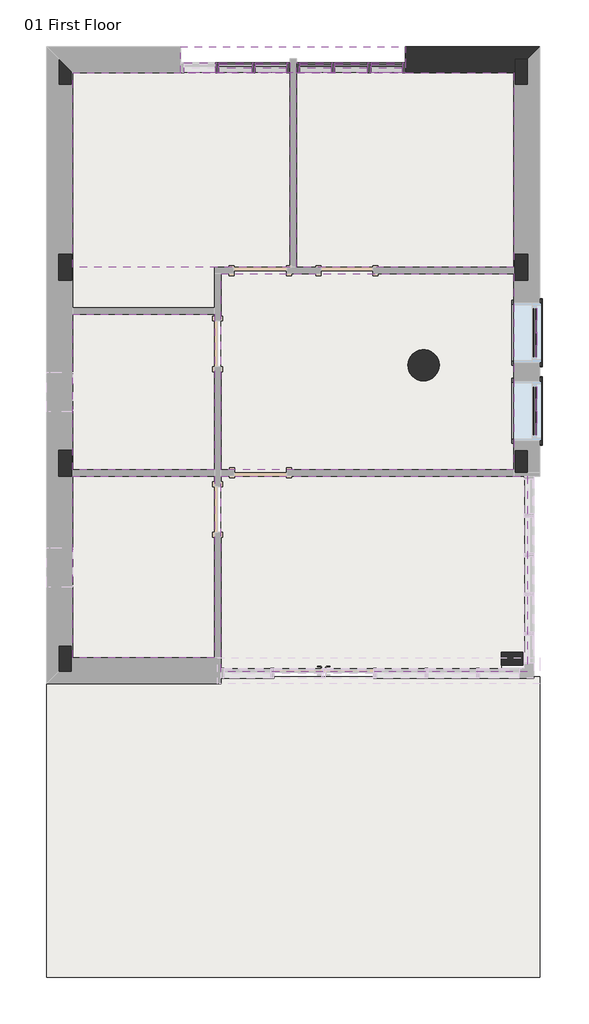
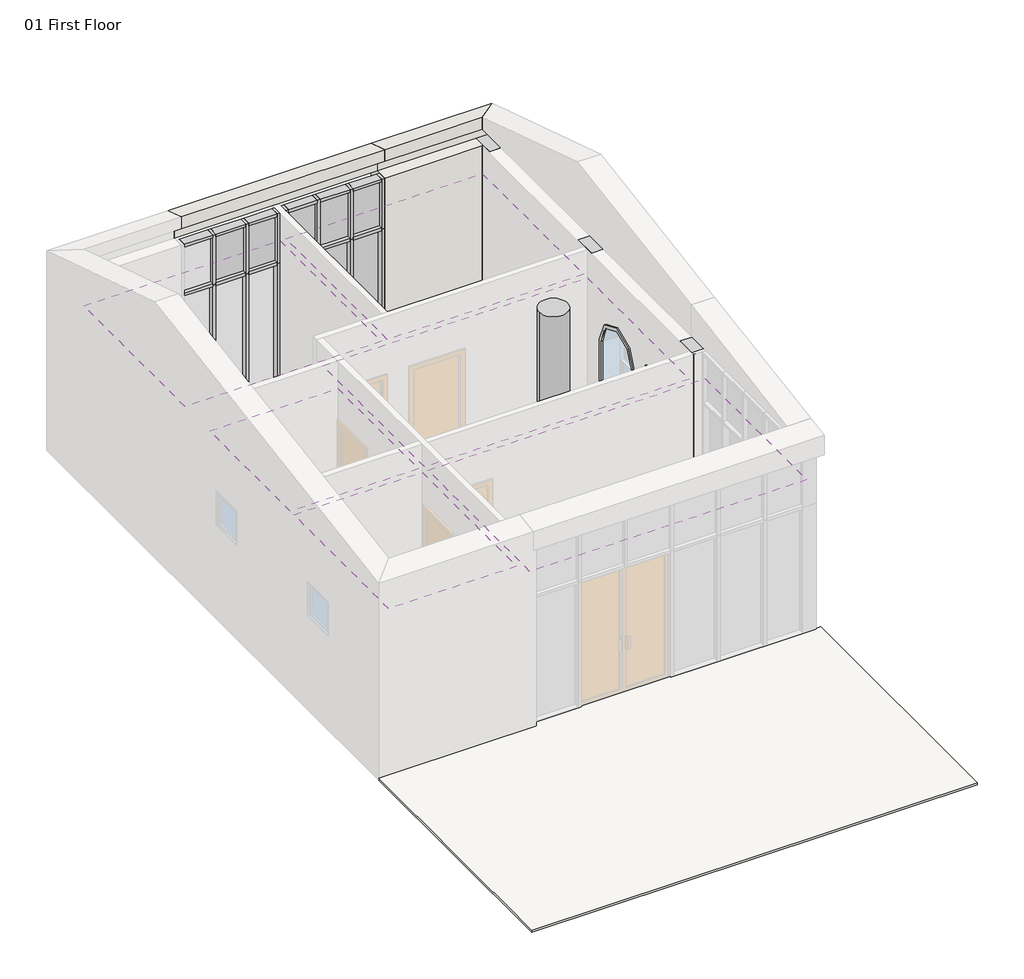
# One storey, part 3 of 3: 31 members, 9 columns, 8 plates, 8 proxies, 6 coverings, 4 slabs, 2 walls.
"""IFC4 building model written with IfcOpenShell, lengths in millimetres."""

from ifc_helpers import new_model, si_unit, point, frame, frame_2d, origin, place, context, project, spatial, polyline, circle_curve, trimmed, segment, composite_curve, outline, extrude, faceted_brep, transform, mapped, element, save
from components import m_muntin_pattern_2x2_m_muntin_pattern_2x2_eda20b33, m_trim_window_exterior_arch_hung_with_sill_d6b66b3f, m_trim_window_interior_arch_hung_picture_frame_427b2bff, rectangular_mullion_50_x_150mm_8753ce05, rectangular_mullion_50_x_150mm_f70f74d1, rectangular_mullion_50_x_150mm_d1e66009, rectangular_mullion_50_x_150mm_6b054e58, rectangular_mullion_50_x_150mm_158f91f9, rectangular_mullion_50_x_150mm_7e1a8c17, rectangular_mullion_50_x_150mm_3ddb3363, rectangular_mullion_50_x_150mm_35d6a770, system_panel_glazed_5d80e23d, system_panel_glazed_623b0429, system_panel_solid_e171d4ab, system_panel_solid_d5224606

model = new_model("IFC4")

# Units and contexts
model_context = context("Model", 3, world=origin())
ifc_project = project(units=[si_unit("LENGTHUNIT", "METRE", prefix="MILLI")], contexts=[model_context])

# Site, building, storey
site = spatial("IfcSite", under=ifc_project)
building = spatial("IfcBuilding", under=site)
storey = spatial("IfcBuildingStorey", under=building, Name="01 First Floor", Elevation=3500.0)

# Proxies
placement = place(None, origin())
m_muntin_pattern_2x2_m_muntin_pattern_2x2_shape = m_muntin_pattern_2x2_m_muntin_pattern_2x2_eda20b33(model_context)
element("IfcBuildingElementProxy", 1, Name="M_Muntin Pattern_2x2 : M_Muntin Pattern_2x2", ObjectType="M_Muntin Pattern_2x2 : M_Muntin Pattern_2x2", at=placement, inside=storey, context=model_context, shape_type="MappedRepresentation", body=[
    mapped(m_muntin_pattern_2x2_m_muntin_pattern_2x2_shape, transform((-972.4657999, 936.7898352, 4922.225), x_axis=(0.0, -1.0, 0.0), y_axis=(1.0, 0.0, 0.0), z_axis=(0.0, 0.0, 1.0))),
])
element("IfcBuildingElementProxy", 2, Name="M_Muntin Pattern_2x2 : M_Muntin Pattern_2x2", ObjectType="M_Muntin Pattern_2x2 : M_Muntin Pattern_2x2", at=placement, inside=storey, context=model_context, shape_type="MappedRepresentation", body=[
    mapped(m_muntin_pattern_2x2_m_muntin_pattern_2x2_shape, transform((-1016.9157999, 936.7898352, 4076.2), x_axis=(0.0, -1.0, 0.0), y_axis=(1.0, 0.0, 0.0), z_axis=(0.0, 0.0, 1.0))),
])
element("IfcBuildingElementProxy", 3, Name="M_Muntin Pattern_2x2 : M_Muntin Pattern_2x2", ObjectType="M_Muntin Pattern_2x2 : M_Muntin Pattern_2x2", at=placement, inside=storey, context=model_context, shape_type="MappedRepresentation", body=[
    mapped(m_muntin_pattern_2x2_m_muntin_pattern_2x2_shape, transform((-972.4657999, 2136.7898352, 4922.225), x_axis=(0.0, -1.0, 0.0), y_axis=(1.0, 0.0, 0.0), z_axis=(0.0, 0.0, 1.0))),
])
element("IfcBuildingElementProxy", 4, Name="M_Muntin Pattern_2x2 : M_Muntin Pattern_2x2", ObjectType="M_Muntin Pattern_2x2 : M_Muntin Pattern_2x2", at=placement, inside=storey, context=model_context, shape_type="MappedRepresentation", body=[
    mapped(m_muntin_pattern_2x2_m_muntin_pattern_2x2_shape, transform((-1016.9157999, 2136.7898352, 4076.2), x_axis=(0.0, -1.0, 0.0), y_axis=(1.0, 0.0, 0.0), z_axis=(0.0, 0.0, 1.0))),
])
m_trim_window_exterior_arch_hung_with_sill_shape = m_trim_window_exterior_arch_hung_with_sill_d6b66b3f(model_context)
element("IfcBuildingElementProxy", 5, Name="M_Trim-Window-Exterior-Arch-Hung : with Sill", ObjectType="M_Trim-Window-Exterior-Arch-Hung : with Sill", at=placement, inside=storey, context=model_context, shape_type="MappedRepresentation", body=[
    mapped(m_trim_window_exterior_arch_hung_with_sill_shape, transform((-937.5407999, 936.7898352, 5800.0), x_axis=(0.0, 1.0, 0.0), y_axis=(0.0, 0.0, 1.0), z_axis=(1.0, 0.0, 0.0))),
])
element("IfcBuildingElementProxy", 6, Name="M_Trim-Window-Exterior-Arch-Hung : with Sill", ObjectType="M_Trim-Window-Exterior-Arch-Hung : with Sill", at=placement, inside=storey, context=model_context, shape_type="MappedRepresentation", body=[
    mapped(m_trim_window_exterior_arch_hung_with_sill_shape, transform((-937.5407999, 2136.7898352, 5800.0), x_axis=(0.0, 1.0, 0.0), y_axis=(0.0, 0.0, 1.0), z_axis=(1.0, 0.0, 0.0))),
])
m_trim_window_interior_arch_hung_picture_frame_shape = m_trim_window_interior_arch_hung_picture_frame_427b2bff(model_context)
element("IfcBuildingElementProxy", 7, Name="M_Trim-Window-Interior-Arch-Hung : Picture Frame", ObjectType="M_Trim-Window-Interior-Arch-Hung : Picture Frame", at=placement, inside=storey, context=model_context, shape_type="MappedRepresentation", body=[
    mapped(m_trim_window_interior_arch_hung_picture_frame_shape, transform((-1335.5407999, 936.7898352, 5800.0), x_axis=(0.0, -1.0, 0.0), y_axis=(0.0, 0.0, 1.0), z_axis=(-1.0, 0.0, 0.0))),
])
element("IfcBuildingElementProxy", 8, Name="M_Trim-Window-Interior-Arch-Hung : Picture Frame", ObjectType="M_Trim-Window-Interior-Arch-Hung : Picture Frame", at=placement, inside=storey, context=model_context, shape_type="MappedRepresentation", body=[
    mapped(m_trim_window_interior_arch_hung_picture_frame_shape, transform((-1335.5407999, 2136.7898352, 5800.0), x_axis=(0.0, -1.0, 0.0), y_axis=(0.0, 0.0, 1.0), z_axis=(-1.0, 0.0, 0.0))),
])

# Columns
element("IfcColumn", 9, ObjectType="M_Concrete-Rectangular-Column : 200 x 325mm", at=placement, inside=storey, context=model_context, shape_type="SweptSolid", body=[
    extrude(outline(polyline([(-1527.5407999, -2762.7101648), (-1202.5407999, -2762.7101648), (-1202.5407999, -2962.7101648), (-1527.5407999, -2962.7101648), (-1527.5407999, -2762.7101648)])), frame((0.0, 0.0, 3500.0), z_axis=(0.0, 0.0, 1.0), x_axis=(1.0, 0.0, 0.0)), (0.0, 0.0, 1.0), 3200.0),
])
element("IfcColumn", 10, ObjectType="M_Concrete-Rectangular-Column : 200 x 400mm", at=placement, inside=storey, context=model_context, shape_type="Brep", body=[
    faceted_brep([(-8122.5407999, 6337.2898352, 3500.0), (-8122.5407999, 6137.2898352, 3500.0), (-8122.5407999, 5937.2898352, 3500.0), (-8322.5407999, 5937.2898352, 3500.0), (-8322.5407999, 6337.2898352, 3500.0), (-8122.5407999, 6337.2898352, 6700.0), (-8122.5407999, 6137.2898352, 6700.0), (-8122.5407999, 5937.2898352, 6700.0), (-8322.5407999, 5937.2898352, 6700.0), (-8322.5407999, 6337.2898352, 6700.0)], [[[0, 1, 2, 3, 4]], [[2, 1, 0, 5, 6, 7]], [[3, 2, 7, 8]], [[4, 3, 8, 9]], [[0, 4, 9, 5]], [[7, 6, 5, 9, 8]]]),
])
element("IfcColumn", 11, ObjectType="M_Concrete-Rectangular-Column : 200 x 400mm", at=placement, inside=storey, context=model_context, shape_type="SweptSolid", body=[
    extrude(outline(polyline([(-8122.5407999, 3337.2898352), (-8122.5407999, 2937.2898352), (-8322.5407999, 2937.2898352), (-8322.5407999, 3337.2898352), (-8122.5407999, 3337.2898352)])), frame((0.0, 0.0, 3500.0), z_axis=(0.0, 0.0, 1.0), x_axis=(1.0, 0.0, 0.0)), (0.0, 0.0, 1.0), 3200.0),
])
element("IfcColumn", 12, ObjectType="M_Concrete-Rectangular-Column : 200 x 400mm", at=placement, inside=storey, context=model_context, shape_type="SweptSolid", body=[
    extrude(outline(polyline([(-8122.5407999, 337.2898352), (-8122.5407999, -62.7101648), (-8322.5407999, -62.7101648), (-8322.5407999, 337.2898352), (-8122.5407999, 337.2898352)])), frame((0.0, 0.0, 3500.0), z_axis=(0.0, 0.0, 1.0), x_axis=(1.0, 0.0, 0.0)), (0.0, 0.0, 1.0), 3200.0),
])
element("IfcColumn", 13, ObjectType="M_Concrete-Rectangular-Column : 200 x 400mm", at=placement, inside=storey, context=model_context, shape_type="Brep", body=[
    faceted_brep([(-8122.5407999, -2662.7101648, 3500.0), (-8122.5407999, -2862.7101648, 3500.0), (-8122.5407999, -3062.7101648, 3500.0), (-8322.5407999, -3062.7101648, 3500.0), (-8322.5407999, -2662.7101648, 3500.0), (-8122.5407999, -2662.7101648, 6700.0), (-8122.5407999, -2862.7101648, 6700.0), (-8122.5407999, -3062.7101648, 6700.0), (-8322.5407999, -3062.7101648, 6700.0), (-8322.5407999, -2662.7101648, 6700.0)], [[[0, 1, 2, 3, 4]], [[2, 1, 0, 5, 6, 7]], [[3, 2, 7, 8]], [[4, 3, 8, 9]], [[0, 4, 9, 5]], [[7, 6, 5, 9, 8]]]),
])
element("IfcColumn", 14, ObjectType="M_Concrete-Rectangular-Column : 200 x 400mm", at=placement, inside=storey, context=model_context, shape_type="Brep", body=[
    faceted_brep([(-1122.5407999, 337.2898352, 3500.0), (-1122.5407999, -12.7101648, 3500.0), (-1122.5407999, -62.7101648, 3500.0), (-1322.5407999, -62.7101648, 3500.0), (-1322.5407999, -12.7101648, 3500.0), (-1322.5407999, 337.2898352, 3500.0), (-1122.5407999, 337.2898352, 6700.0), (-1122.5407999, -62.7101648, 6700.0), (-1322.5407999, -62.7101648, 6700.0), (-1322.5407999, -12.7101648, 6700.0), (-1322.5407999, 337.2898352, 6700.0)], [[[0, 1, 2, 3, 4, 5]], [[2, 1, 0, 6, 7]], [[3, 2, 7, 8]], [[5, 4, 3, 8, 9, 10]], [[0, 5, 10, 6]], [[7, 6, 10, 9, 8]]]),
])
element("IfcColumn", 15, ObjectType="M_Concrete-Rectangular-Column : 200 x 400mm", at=placement, inside=storey, context=model_context, shape_type="Brep", body=[
    faceted_brep([(-1122.5407999, 6337.2898352, 3500.0), (-1122.5407999, 5937.2898352, 3500.0), (-1322.5407999, 5937.2898352, 3500.0), (-1322.5407999, 6137.2898352, 3500.0), (-1322.5407999, 6337.2898352, 3500.0), (-1122.5407999, 6337.2898352, 6700.0), (-1122.5407999, 5937.2898352, 6700.0), (-1322.5407999, 5937.2898352, 6700.0), (-1322.5407999, 6137.2898352, 6700.0), (-1322.5407999, 6337.2898352, 6700.0)], [[[0, 1, 2, 3, 4]], [[1, 0, 5, 6]], [[2, 1, 6, 7]], [[4, 3, 2, 7, 8, 9]], [[0, 4, 9, 5]], [[6, 5, 9, 8, 7]]]),
])
element("IfcColumn", 16, ObjectType="M_Concrete-Rectangular-Column : 200 x 400mm", at=placement, inside=storey, context=model_context, shape_type="SweptSolid", body=[
    extrude(outline(polyline([(-1122.5407999, 3337.2898352), (-1122.5407999, 2937.2898352), (-1322.5407999, 2937.2898352), (-1322.5407999, 3337.2898352), (-1122.5407999, 3337.2898352)])), frame((0.0, 0.0, 3500.0), z_axis=(0.0, 0.0, 1.0), x_axis=(1.0, 0.0, 0.0)), (0.0, 0.0, 1.0), 3200.0),
])
element("IfcColumn", 17, ObjectType="M_Concrete-Round-Column : 480mm", at=placement, inside=storey, context=model_context, shape_type="SweptSolid", body=[
    extrude(outline(composite_curve([segment(trimmed(circle_curve(frame_2d((-2722.5407999, 1637.2898352)), 240.0), [point((-2962.5407999, 1637.2898352))], [point((-2482.5407999, 1637.2898352))], False, "CARTESIAN"), True, "CONTINUOUS"), segment(trimmed(circle_curve(frame_2d((-2722.5407999, 1637.2898352)), 240.0), [point((-2482.5407999, 1637.2898352))], [point((-2962.5407999, 1637.2898352))], False, "CARTESIAN"), True, "CONTINUOUS")], self_intersect=False)), frame((0.0, 0.0, 3500.0), z_axis=(0.0, 0.0, 1.0), x_axis=(1.0, 0.0, 0.0)), (0.0, 0.0, 1.0), 3500.0),
])

# Coverings
element("IfcCovering", 18, ObjectType="600 x 600mm Grid", at=placement, inside=storey, context=model_context, shape_type="SweptSolid", body=[
    extrude(outline(polyline([(-1127.5407999, -62.7101648), (-1127.5407999, -3062.7101648), (-5832.5407999, -3062.7101648), (-5832.5407999, -62.7101648), (-1127.5407999, -62.7101648)])), frame((0.0, 0.0, 6200.0), z_axis=(0.0, 0.0, 1.0), x_axis=(1.0, 0.0, 0.0)), (0.0, 0.0, 1.0), 52.0),
])
element("IfcCovering", 19, ObjectType="600 x 600mm Grid", at=placement, inside=storey, context=model_context, shape_type="SweptSolid", body=[
    extrude(outline(polyline([(-5832.5407999, 3037.2898352), (-1335.5407999, 3037.6532062), (-1335.5407999, 37.2898352), (-5832.5407999, 37.2898352), (-5832.5407999, 3037.2898352)]), holes=[composite_curve([segment(polyline([(-3762.5550463, 1637.3625525), (-2962.1657331, 1637.3625525)]), True, "CONTINUOUS"), segment(trimmed(circle_curve(frame_2d((-2722.147977, 1637.3625525)), 240.0177561), [point((-2962.1657331, 1637.3625525))], [point((-2722.147977, 1397.3447964))], False, "CARTESIAN"), True, "CONTINUOUS"), segment(polyline([(-2722.147977, 1397.3447964), (-2709.6572376, 597.4130295)]), True, "CONTINUOUS"), segment(trimmed(circle_curve(frame_2d((-2722.5259059, 1637.3625525)), 1040.0291404), [point((-2709.6572376, 597.4130295))], [point((-3762.5550463, 1637.3625525))], True, "CARTESIAN"), True, "CONTINUOUS")], self_intersect=False)]), frame((0.0, 0.0, 6200.0), z_axis=(0.0, 0.0, 1.0), x_axis=(1.0, 0.0, 0.0)), (0.0, 0.0, 1.0), 52.0),
])
element("IfcCovering", 20, ObjectType="600 x 600mm Grid", at=placement, inside=storey, context=model_context, shape_type="SweptSolid", body=[
    extrude(outline(polyline([(-2997.5407999, 6124.2898352), (-1335.5407999, 6124.2898352), (-1335.5407999, 3137.6532065), (-4672.5407999, 3137.383567), (-4672.5407999, 6124.2898352), (-2997.5407999, 6124.2898352)])), frame((0.0, 0.0, 6200.0), z_axis=(0.0, 0.0, 1.0), x_axis=(1.0, 0.0, 0.0)), (0.0, 0.0, 1.0), 52.0),
])
element("IfcCovering", 21, ObjectType="600 x 600mm Grid", at=placement, inside=storey, context=model_context, shape_type="SweptSolid", body=[
    extrude(outline(polyline([(-4772.5407999, 6124.2898352), (-4772.5407999, 3137.3754867), (-8109.5407999, 3137.3754867), (-8109.5407999, 6124.2898352), (-4772.5407999, 6124.2898352)])), frame((0.0, 0.0, 6200.0), z_axis=(0.0, 0.0, 1.0), x_axis=(1.0, 0.0, 0.0)), (0.0, 0.0, 1.0), 52.0),
])
element("IfcCovering", 22, ObjectType="600 x 600mm Grid", at=placement, inside=storey, context=model_context, shape_type="SweptSolid", body=[
    extrude(outline(polyline([(-5932.5407999, 37.2898352), (-8109.5407999, 37.2898352), (-8109.5407999, 2415.8732706), (-5932.5407999, 2415.8732706), (-5932.5407999, 37.2898352)])), frame((0.0, 0.0, 6200.0), z_axis=(0.0, 0.0, 1.0), x_axis=(1.0, 0.0, 0.0)), (0.0, 0.0, 1.0), 52.0),
])
element("IfcCovering", 23, ObjectType="600 x 600mm Grid", at=placement, inside=storey, context=model_context, shape_type="SweptSolid", body=[
    extrude(outline(polyline([(-5932.5407999, -2849.7101648), (-8109.5407999, -2849.7101648), (-8109.5407999, -62.7101648), (-5932.5407999, -62.7101648), (-5932.5407999, -2849.7101648)])), frame((0.0, 0.0, 6200.0), z_axis=(0.0, 0.0, 1.0), x_axis=(1.0, 0.0, 0.0)), (0.0, 0.0, 1.0), 52.0),
])

# Members
rectangular_mullion_50_x_150mm_shape = rectangular_mullion_50_x_150mm_8753ce05(model_context)
element("IfcMember", 24, ObjectType="Rectangular Mullion : 50 x 150mm", at=placement, inside=storey, context=model_context, shape_type="MappedRepresentation", body=[
    mapped(rectangular_mullion_50_x_150mm_shape, transform((-4772.5407999, 6199.2898352, 3500.0), x_axis=(1.0, 0.0, 0.0), y_axis=(0.0, -1.0, 0.0), z_axis=(0.0, 0.0, -1.0))),
])
element("IfcMember", 25, ObjectType="Rectangular Mullion : 50 x 150mm", at=placement, inside=storey, context=model_context, shape_type="MappedRepresentation", body=[
    mapped(rectangular_mullion_50_x_150mm_shape, transform((-2997.5407999, 6199.2898352, 3500.0), x_axis=(1.0, 0.0, 0.0), y_axis=(0.0, -1.0, 0.0), z_axis=(0.0, 0.0, -1.0))),
])
element("IfcMember", 26, ObjectType="Rectangular Mullion : 50 x 150mm", at=placement, inside=storey, context=model_context, shape_type="MappedRepresentation", body=[
    mapped(rectangular_mullion_50_x_150mm_shape, transform((-4672.5407999, 6199.2898352, 5800.0), x_axis=(-1.0, 0.0, 0.0), y_axis=(0.0, -1.0, 0.0), z_axis=(0.0, 0.0, 1.0))),
])
rectangular_mullion_50_x_150mm_2_shape = rectangular_mullion_50_x_150mm_f70f74d1(model_context)
element("IfcMember", 27, ObjectType="Rectangular Mullion : 50 x 150mm", at=placement, inside=storey, context=model_context, shape_type="MappedRepresentation", body=[
    mapped(rectangular_mullion_50_x_150mm_2_shape, transform((-5889.2074665, 6199.2898352, 3500.0), x_axis=(1.0, 0.0, 0.0), y_axis=(0.0, -1.0, 0.0), z_axis=(0.0, 0.0, -1.0))),
])
element("IfcMember", 28, ObjectType="Rectangular Mullion : 50 x 150mm", at=placement, inside=storey, context=model_context, shape_type="MappedRepresentation", body=[
    mapped(rectangular_mullion_50_x_150mm_2_shape, transform((-5330.8741334, 6199.2898352, 3500.0), x_axis=(1.0, 0.0, 0.0), y_axis=(0.0, -1.0, 0.0), z_axis=(0.0, 0.0, -1.0))),
])
element("IfcMember", 29, ObjectType="Rectangular Mullion : 50 x 150mm", at=placement, inside=storey, context=model_context, shape_type="MappedRepresentation", body=[
    mapped(rectangular_mullion_50_x_150mm_2_shape, transform((-4114.2074665, 6199.2898352, 3500.0), x_axis=(1.0, 0.0, 0.0), y_axis=(0.0, -1.0, 0.0), z_axis=(0.0, 0.0, -1.0))),
])
element("IfcMember", 30, ObjectType="Rectangular Mullion : 50 x 150mm", at=placement, inside=storey, context=model_context, shape_type="MappedRepresentation", body=[
    mapped(rectangular_mullion_50_x_150mm_2_shape, transform((-3555.8741334, 6199.2898352, 3500.0), x_axis=(1.0, 0.0, 0.0), y_axis=(0.0, -1.0, 0.0), z_axis=(0.0, 0.0, -1.0))),
])
rectangular_mullion_50_x_150mm_3_shape = rectangular_mullion_50_x_150mm_d1e66009(model_context)
element("IfcMember", 31, ObjectType="Rectangular Mullion : 50 x 150mm", at=placement, inside=storey, context=model_context, shape_type="MappedRepresentation", body=[
    mapped(rectangular_mullion_50_x_150mm_3_shape, transform((-4822.5407999, 6199.2898352, 6700.0), x_axis=(0.0, 0.0, 1.0), y_axis=(0.0, -1.0, 0.0), z_axis=(1.0, 0.0, 0.0))),
])
element("IfcMember", 32, ObjectType="Rectangular Mullion : 50 x 150mm", at=placement, inside=storey, context=model_context, shape_type="MappedRepresentation", body=[
    mapped(rectangular_mullion_50_x_150mm_3_shape, transform((-5914.2074665, 6199.2898352, 6700.0), x_axis=(0.0, 0.0, 1.0), y_axis=(0.0, -1.0, 0.0), z_axis=(1.0, 0.0, 0.0))),
])
element("IfcMember", 33, ObjectType="Rectangular Mullion : 50 x 150mm", at=placement, inside=storey, context=model_context, shape_type="MappedRepresentation", body=[
    mapped(rectangular_mullion_50_x_150mm_3_shape, transform((-3047.5407999, 6199.2898352, 6700.0), x_axis=(0.0, 0.0, 1.0), y_axis=(0.0, -1.0, 0.0), z_axis=(1.0, 0.0, 0.0))),
])
element("IfcMember", 34, ObjectType="Rectangular Mullion : 50 x 150mm", at=placement, inside=storey, context=model_context, shape_type="MappedRepresentation", body=[
    mapped(rectangular_mullion_50_x_150mm_3_shape, transform((-4139.2074665, 6199.2898352, 6700.0), x_axis=(0.0, 0.0, 1.0), y_axis=(0.0, -1.0, 0.0), z_axis=(1.0, 0.0, 0.0))),
])
rectangular_mullion_50_x_150mm_4_shape = rectangular_mullion_50_x_150mm_6b054e58(model_context)
element("IfcMember", 35, ObjectType="Rectangular Mullion : 50 x 150mm", at=placement, inside=storey, context=model_context, shape_type="MappedRepresentation", body=[
    mapped(rectangular_mullion_50_x_150mm_4_shape, transform((-5355.8741334, 6199.2898352, 6700.0), x_axis=(0.0, 0.0, 1.0), y_axis=(0.0, -1.0, 0.0), z_axis=(1.0, 0.0, 0.0))),
])
element("IfcMember", 36, ObjectType="Rectangular Mullion : 50 x 150mm", at=placement, inside=storey, context=model_context, shape_type="MappedRepresentation", body=[
    mapped(rectangular_mullion_50_x_150mm_4_shape, transform((-3580.8741334, 6199.2898352, 6700.0), x_axis=(0.0, 0.0, 1.0), y_axis=(0.0, -1.0, 0.0), z_axis=(1.0, 0.0, 0.0))),
])
element("IfcMember", 37, ObjectType="Rectangular Mullion : 50 x 150mm", at=placement, inside=storey, context=model_context, shape_type="MappedRepresentation", body=[
    mapped(rectangular_mullion_50_x_150mm_3_shape, transform((-5305.8741334, 6199.2898352, 3500.0), x_axis=(0.0, 0.0, -1.0), y_axis=(0.0, -1.0, 0.0), z_axis=(-1.0, 0.0, 0.0))),
])
element("IfcMember", 38, ObjectType="Rectangular Mullion : 50 x 150mm", at=placement, inside=storey, context=model_context, shape_type="MappedRepresentation", body=[
    mapped(rectangular_mullion_50_x_150mm_3_shape, transform((-4622.5407999, 6199.2898352, 3500.0), x_axis=(0.0, 0.0, -1.0), y_axis=(0.0, -1.0, 0.0), z_axis=(-1.0, 0.0, 0.0))),
])
element("IfcMember", 39, ObjectType="Rectangular Mullion : 50 x 150mm", at=placement, inside=storey, context=model_context, shape_type="MappedRepresentation", body=[
    mapped(rectangular_mullion_50_x_150mm_3_shape, transform((-3530.8741334, 6199.2898352, 3500.0), x_axis=(0.0, 0.0, -1.0), y_axis=(0.0, -1.0, 0.0), z_axis=(-1.0, 0.0, 0.0))),
])
element("IfcMember", 40, ObjectType="Rectangular Mullion : 50 x 150mm", at=placement, inside=storey, context=model_context, shape_type="MappedRepresentation", body=[
    mapped(rectangular_mullion_50_x_150mm_4_shape, transform((-5864.2074665, 6199.2898352, 3500.0), x_axis=(0.0, 0.0, -1.0), y_axis=(0.0, -1.0, 0.0), z_axis=(-1.0, 0.0, 0.0))),
])
element("IfcMember", 41, ObjectType="Rectangular Mullion : 50 x 150mm", at=placement, inside=storey, context=model_context, shape_type="MappedRepresentation", body=[
    mapped(rectangular_mullion_50_x_150mm_4_shape, transform((-4089.2074665, 6199.2898352, 3500.0), x_axis=(0.0, 0.0, -1.0), y_axis=(0.0, -1.0, 0.0), z_axis=(-1.0, 0.0, 0.0))),
])
rectangular_mullion_50_x_150mm_5_shape = rectangular_mullion_50_x_150mm_158f91f9(model_context)
element("IfcMember", 42, ObjectType="Rectangular Mullion : 50 x 150mm", at=placement, inside=storey, context=model_context, shape_type="MappedRepresentation", body=[
    mapped(rectangular_mullion_50_x_150mm_5_shape, transform((-5914.2074665, 6199.2898352, 5800.0), x_axis=(0.0, 0.0, 1.0), y_axis=(0.0, -1.0, 0.0), z_axis=(1.0, 0.0, 0.0))),
])
element("IfcMember", 43, ObjectType="Rectangular Mullion : 50 x 150mm", at=placement, inside=storey, context=model_context, shape_type="MappedRepresentation", body=[
    mapped(rectangular_mullion_50_x_150mm_5_shape, transform((-4822.5407999, 6199.2898352, 5800.0), x_axis=(0.0, 0.0, 1.0), y_axis=(0.0, -1.0, 0.0), z_axis=(1.0, 0.0, 0.0))),
])
element("IfcMember", 44, ObjectType="Rectangular Mullion : 50 x 150mm", at=placement, inside=storey, context=model_context, shape_type="MappedRepresentation", body=[
    mapped(rectangular_mullion_50_x_150mm_5_shape, transform((-4139.2074665, 6199.2898352, 5800.0), x_axis=(0.0, 0.0, 1.0), y_axis=(0.0, -1.0, 0.0), z_axis=(1.0, 0.0, 0.0))),
])
element("IfcMember", 45, ObjectType="Rectangular Mullion : 50 x 150mm", at=placement, inside=storey, context=model_context, shape_type="MappedRepresentation", body=[
    mapped(rectangular_mullion_50_x_150mm_5_shape, transform((-3047.5407999, 6199.2898352, 5800.0), x_axis=(0.0, 0.0, 1.0), y_axis=(0.0, -1.0, 0.0), z_axis=(1.0, 0.0, 0.0))),
])
rectangular_mullion_50_x_150mm_6_shape = rectangular_mullion_50_x_150mm_7e1a8c17(model_context)
element("IfcMember", 46, ObjectType="Rectangular Mullion : 50 x 150mm", at=placement, inside=storey, context=model_context, shape_type="MappedRepresentation", body=[
    mapped(rectangular_mullion_50_x_150mm_6_shape, transform((-5355.8741334, 6199.2898352, 5800.0), x_axis=(0.0, 0.0, 1.0), y_axis=(0.0, -1.0, 0.0), z_axis=(1.0, 0.0, 0.0))),
])
element("IfcMember", 47, ObjectType="Rectangular Mullion : 50 x 150mm", at=placement, inside=storey, context=model_context, shape_type="MappedRepresentation", body=[
    mapped(rectangular_mullion_50_x_150mm_6_shape, transform((-3580.8741334, 6199.2898352, 5800.0), x_axis=(0.0, 0.0, 1.0), y_axis=(0.0, -1.0, 0.0), z_axis=(1.0, 0.0, 0.0))),
])
rectangular_mullion_50_x_150mm_7_shape = rectangular_mullion_50_x_150mm_3ddb3363(model_context)
element("IfcMember", 48, ObjectType="Rectangular Mullion : 50 x 150mm", at=placement, inside=storey, context=model_context, shape_type="MappedRepresentation", body=[
    mapped(rectangular_mullion_50_x_150mm_7_shape, transform((-5889.2074665, 6199.2898352, 5800.0), x_axis=(1.0, 0.0, 0.0), y_axis=(0.0, -1.0, 0.0), z_axis=(0.0, 0.0, -1.0))),
])
element("IfcMember", 49, ObjectType="Rectangular Mullion : 50 x 150mm", at=placement, inside=storey, context=model_context, shape_type="MappedRepresentation", body=[
    mapped(rectangular_mullion_50_x_150mm_7_shape, transform((-5330.8741334, 6199.2898352, 5800.0), x_axis=(1.0, 0.0, 0.0), y_axis=(0.0, -1.0, 0.0), z_axis=(0.0, 0.0, -1.0))),
])
element("IfcMember", 50, ObjectType="Rectangular Mullion : 50 x 150mm", at=placement, inside=storey, context=model_context, shape_type="MappedRepresentation", body=[
    mapped(rectangular_mullion_50_x_150mm_7_shape, transform((-4114.2074665, 6199.2898352, 5800.0), x_axis=(1.0, 0.0, 0.0), y_axis=(0.0, -1.0, 0.0), z_axis=(0.0, 0.0, -1.0))),
])
element("IfcMember", 51, ObjectType="Rectangular Mullion : 50 x 150mm", at=placement, inside=storey, context=model_context, shape_type="MappedRepresentation", body=[
    mapped(rectangular_mullion_50_x_150mm_7_shape, transform((-3555.8741334, 6199.2898352, 5800.0), x_axis=(1.0, 0.0, 0.0), y_axis=(0.0, -1.0, 0.0), z_axis=(0.0, 0.0, -1.0))),
])
rectangular_mullion_50_x_150mm_8_shape = rectangular_mullion_50_x_150mm_35d6a770(model_context)
element("IfcMember", 52, ObjectType="Rectangular Mullion : 50 x 150mm", at=placement, inside=storey, context=model_context, shape_type="MappedRepresentation", body=[
    mapped(rectangular_mullion_50_x_150mm_8_shape, transform((-4772.5407999, 6199.2898352, 5800.0), x_axis=(1.0, 0.0, 0.0), y_axis=(0.0, -1.0, 0.0), z_axis=(0.0, 0.0, -1.0))),
])
element("IfcMember", 53, ObjectType="Rectangular Mullion : 50 x 150mm", at=placement, inside=storey, context=model_context, shape_type="MappedRepresentation", body=[
    mapped(rectangular_mullion_50_x_150mm_8_shape, transform((-2997.5407999, 6199.2898352, 5800.0), x_axis=(1.0, 0.0, 0.0), y_axis=(0.0, -1.0, 0.0), z_axis=(0.0, 0.0, -1.0))),
])
element("IfcMember", 54, ObjectType="Rectangular Mullion : 50 x 150mm", at=placement, inside=storey, context=model_context, shape_type="MappedRepresentation", body=[
    mapped(rectangular_mullion_50_x_150mm_8_shape, transform((-4672.5407999, 6199.2898352, 6700.0), x_axis=(-1.0, 0.0, 0.0), y_axis=(0.0, -1.0, 0.0), z_axis=(0.0, 0.0, 1.0))),
])

# Plates
system_panel_glazed_shape = system_panel_glazed_5d80e23d(model_context)
element("IfcPlate", 55, ObjectType="System Panel : Glazed", at=placement, inside=storey, context=model_context, shape_type="MappedRepresentation", body=[
    mapped(system_panel_glazed_shape, transform((-4380.8741332, 6199.2898352, 3550.0), x_axis=(1.0, 0.0, 0.0), y_axis=(0.0, 1.0, 0.0), z_axis=(0.0, 0.0, 1.0))),
])
element("IfcPlate", 56, ObjectType="System Panel : Glazed", at=placement, inside=storey, context=model_context, shape_type="MappedRepresentation", body=[
    mapped(system_panel_glazed_shape, transform((-3289.2074667, 6199.2898352, 3550.0), x_axis=(1.0, 0.0, 0.0), y_axis=(0.0, 1.0, 0.0), z_axis=(0.0, 0.0, 1.0))),
])
system_panel_glazed_2_shape = system_panel_glazed_623b0429(model_context)
element("IfcPlate", 57, ObjectType="System Panel : Glazed", at=placement, inside=storey, context=model_context, shape_type="MappedRepresentation", body=[
    mapped(system_panel_glazed_2_shape, transform((-3835.0407999, 6199.2898352, 3550.0), x_axis=(1.0, 0.0, 0.0), y_axis=(0.0, 1.0, 0.0), z_axis=(0.0, 0.0, 1.0))),
])
system_panel_solid_shape = system_panel_solid_e171d4ab(model_context)
element("IfcPlate", 58, ObjectType="System Panel : Solid", at=placement, inside=storey, context=model_context, shape_type="MappedRepresentation", body=[
    mapped(system_panel_solid_shape, transform((-5064.2074667, 6199.2898352, 5825.0), x_axis=(1.0, 0.0, 0.0), y_axis=(0.0, 1.0, 0.0), z_axis=(0.0, 0.0, 1.0))),
])
element("IfcPlate", 59, ObjectType="System Panel : Solid", at=placement, inside=storey, context=model_context, shape_type="MappedRepresentation", body=[
    mapped(system_panel_solid_shape, transform((-4380.8741332, 6199.2898352, 5825.0), x_axis=(1.0, 0.0, 0.0), y_axis=(0.0, 1.0, 0.0), z_axis=(0.0, 0.0, 1.0))),
])
element("IfcPlate", 60, ObjectType="System Panel : Solid", at=placement, inside=storey, context=model_context, shape_type="MappedRepresentation", body=[
    mapped(system_panel_solid_shape, transform((-3289.2074667, 6199.2898352, 5825.0), x_axis=(1.0, 0.0, 0.0), y_axis=(0.0, 1.0, 0.0), z_axis=(0.0, 0.0, 1.0))),
])
system_panel_solid_2_shape = system_panel_solid_d5224606(model_context)
element("IfcPlate", 61, ObjectType="System Panel : Solid", at=placement, inside=storey, context=model_context, shape_type="MappedRepresentation", body=[
    mapped(system_panel_solid_2_shape, transform((-5610.0407999, 6199.2898352, 5825.0), x_axis=(1.0, 0.0, 0.0), y_axis=(0.0, 1.0, 0.0), z_axis=(0.0, 0.0, 1.0))),
])
element("IfcPlate", 62, ObjectType="System Panel : Solid", at=placement, inside=storey, context=model_context, shape_type="MappedRepresentation", body=[
    mapped(system_panel_solid_2_shape, transform((-3835.0407999, 6199.2898352, 5825.0), x_axis=(1.0, 0.0, 0.0), y_axis=(0.0, 1.0, 0.0), z_axis=(0.0, 0.0, 1.0))),
])

# Slabs
element("IfcSlab", 63, ObjectType="DECK FLOOR TILES 40mm", at=placement, inside=storey, context=model_context, shape_type="SweptSolid", body=[
    extrude(outline(polyline([(-5832.5407999, -3247.7101648), (-5832.5407999, -3137.7101648), (-937.5407999, -3137.7101648), (-937.5407999, -7747.7101648), (-8507.5407999, -7747.7101648), (-8507.5407999, -3247.7101648), (-5832.5407999, -3247.7101648)])), frame((0.0, 0.0, 3500.0), z_axis=(0.0, 0.0, 1.0), x_axis=(1.0, 0.0, 0.0)), (0.0, 0.0, 1.0), 40.0),
])
element("IfcSlab", 64, ObjectType="Floor Mosaic + Parquet 103mm", at=placement, inside=storey, context=model_context, shape_type="SweptSolid", body=[
    extrude(outline(polyline([(-8122.5407999, 6124.2898352), (-4772.5407999, 6124.2898352), (-4772.5407999, 3137.3710698), (-4827.2040508, 3137.3710698), (-4827.1959705, 3037.3710701), (-4298.0996436, 3037.4138226), (-4298.1077239, 3137.4138223), (-4672.5407999, 3137.383567), (-4668.7907999, 6124.2898352), (-1335.5407999, 6124.2898352), (-1335.5407999, 3137.6532065), (-3496.4162705, 3137.4786014), (-3498.0996603, 3037.6532062), (-1335.5407999, 3037.6532062), (-1335.5407999, 37.2898352), (-4822.5407999, 37.2898352), (-4822.5407999, -67.7101648), (-1177.5407999, -67.7101648), (-1177.5407999, -2762.7101648), (-1527.5407999, -2762.7101648), (-1527.5407999, -3007.7101648), (-5832.5407999, -3007.7101648), (-5832.5407999, -62.7101648), (-5622.5407999, -62.7101648), (-5622.5407999, 37.2898352), (-5832.5407999, 37.2898352), (-5832.5407999, 3037.2898352), (-5627.1959679, 3037.3064277), (-5627.2040462, 3137.2817553), (-5932.5407999, 3137.2817553), (-5932.5407999, 2515.8732706), (-8109.5407999, 2515.8732706), (-8122.5407999, 6124.2898352)])), frame((0.0, 0.0, 3500.0), z_axis=(0.0, 0.0, 1.0), x_axis=(1.0, 0.0, 0.0)), (0.0, 0.0, 1.0), 103.0),
])
element("IfcSlab", 65, ObjectType="Floor Mosaic 88mm", at=placement, inside=storey, context=model_context, shape_type="SweptSolid", body=[
    extrude(outline(polyline([(-5932.5407999, 2415.8732706), (-5932.5407999, 37.2898352), (-8109.5407999, 37.2898352), (-8109.5407999, 2415.8732706), (-5932.5407999, 2415.8732706)])), frame((0.0, 0.0, 3500.0), z_axis=(0.0, 0.0, 1.0), x_axis=(1.0, 0.0, 0.0)), (0.0, 0.0, 1.0), 88.0),
])
element("IfcSlab", 66, ObjectType="Floor Mosaic 88mm", at=placement, inside=storey, context=model_context, shape_type="SweptSolid", body=[
    extrude(outline(polyline([(-8122.5407999, -62.7101648), (-5932.5407999, -62.7101648), (-5932.5407999, -2849.7101648), (-8122.5407999, -2849.7101648), (-8122.5407999, -62.7101648)])), frame((0.0, 0.0, 3500.0), z_axis=(0.0, 0.0, 1.0), x_axis=(1.0, 0.0, 0.0)), (0.0, 0.0, 1.0), 88.0),
])

# Walls
element("IfcWall", 67, ObjectType="Exterior - Brick on CMU", at=placement, inside=storey, context=model_context, shape_type="Brep", body=[
    faceted_brep([(-937.5407999, 6522.2898352, 3500.0), (-1122.5407999, 6522.2898352, 3500.0), (-1300.0407999, 6522.2898352, 3500.0), (-2997.5407999, 6522.2898352, 3500.0), (-2997.5407999, 6522.2898352, 6700.0), (-2997.5407999, 6522.2898352, 7084.4927536), (-937.5407999, 6522.2898352, 7084.4927536), (-2997.5407999, 6124.2898352, 3500.0), (-1335.5407999, 6124.2898352, 3500.0), (-1335.5407999, 6124.2898352, 6700.0), (-2997.5407999, 6124.2898352, 6700.0), (-2997.5407999, 6124.2898352, 7000.0), (-1335.5407999, 6124.2898352, 7000.0), (-1335.5407999, 6124.2898352, 7211.3913043), (-2997.5407999, 6124.2898352, 7211.3913043), (-1122.5407999, 6337.2898352, 3500.0), (-1300.0407999, 6337.2898352, 3500.0), (-1322.5407999, 6337.2898352, 3500.0), (-1322.5407999, 6137.2898352, 3500.0), (-2997.5407999, 6337.2898352, 6700.0), (-2997.5407999, 6337.2898352, 7000.0), (-1322.5407999, 6137.2898352, 7000.0), (-1122.5407999, 6337.2898352, 7000.0), (-1322.5407999, 6137.2898352, 6700.0), (-1322.5407999, 6337.2898352, 6700.0)], [[[0, 1, 2, 3, 4, 5, 6]], [[7, 8, 9, 10]], [[11, 12, 13, 14]], [[3, 2, 1, 0, 15, 16, 17, 18, 8, 7]], [[5, 4, 3, 7, 10, 19, 20, 11, 14]], [[0, 6, 13, 12, 21, 22, 15]], [[9, 8, 18, 23]], [[10, 9, 23, 24, 19]], [[12, 11, 20, 22, 21]], [[20, 19, 24, 17, 16, 15, 22]], [[5, 14, 13, 6]], [[17, 24, 23, 18]]]),
])
element("IfcWall", 68, ObjectType="Exterior - Brick on CMU", at=placement, inside=storey, context=model_context, shape_type="SweptSolid", body=[
    extrude(outline(polyline([(6522.2898352, 7084.4927536), (6522.2898352, 6700.0), (6337.2898352, 6700.0), (6337.2898352, 7000.0), (6124.2898352, 7000.0), (6124.2898352, 7211.3913043), (6522.2898352, 7084.4927536)])), frame((-6447.5407999, 0.0, 0.0), z_axis=(1.0, 0.0, 0.0), x_axis=(0.0, 1.0, 0.0)), (0.0, 0.0, 1.0), 3450.0),
])

save(model, "model.ifc")
